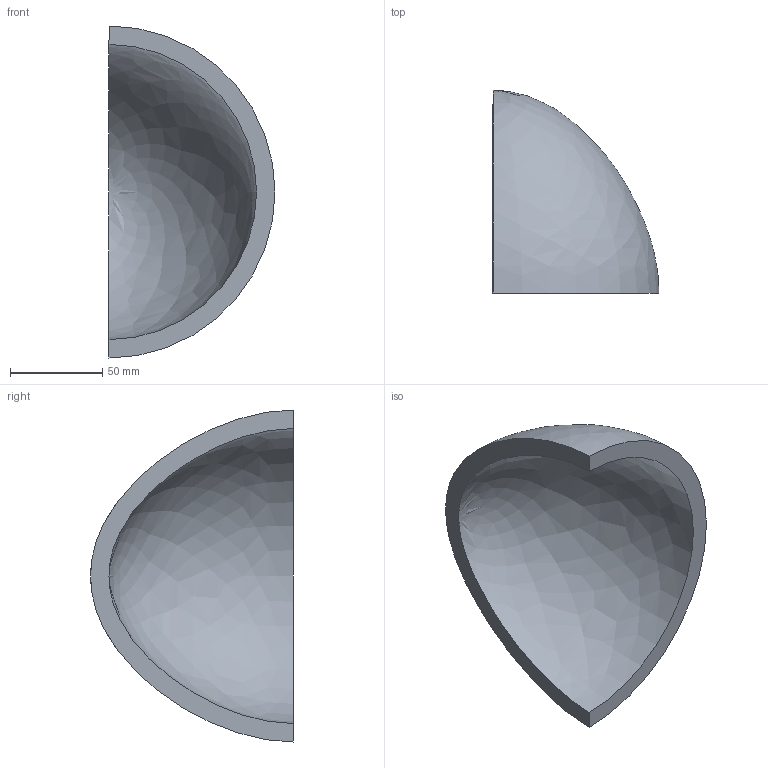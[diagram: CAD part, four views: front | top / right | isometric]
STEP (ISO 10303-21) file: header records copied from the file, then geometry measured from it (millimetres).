
FILE_DESCRIPTION(('CATIA V5 STEP Exchange'),'2;1');
FILE_NAME('C:\_Andres\UNIVERSIDAD\IQS\ASIGNATURAS\DAO\EXF\EXF-16172c\2inicio\Duch_Leira_Ej10_v10.stp','2017-03-05T22:31:10+00:00',('none'),('none'),'CATIA Version 5-6 Release 2014 SP1 HF18','CATIA V5 STEP AP203','none');
FILE_SCHEMA(('CONFIG_CONTROL_DESIGN'));
Length unit declared in the file: millimetre
Products named in the file (1): Duch_Leira_Ej10_v10
Bounding box: 90 x 110 x 180 mm (x, y, z)
Volume: 251459.7 mm3; surface area: 56002.3 mm2
Topology: 1 solids, 1 shells, 4 faces, 10 edges, 6 vertices
Faces by surface type: revolution 2, plane 2
Entity records: 239 total; most frequent: CARTESIAN_POINT 117, ORIENTED_EDGE 16, DIRECTION 10, EDGE_CURVE 8, B_SPLINE_CURVE_WITH_KNOTS 6, VERTEX_POINT 6, AXIS2_PLACEMENT_3D 5, ADVANCED_FACE 4
